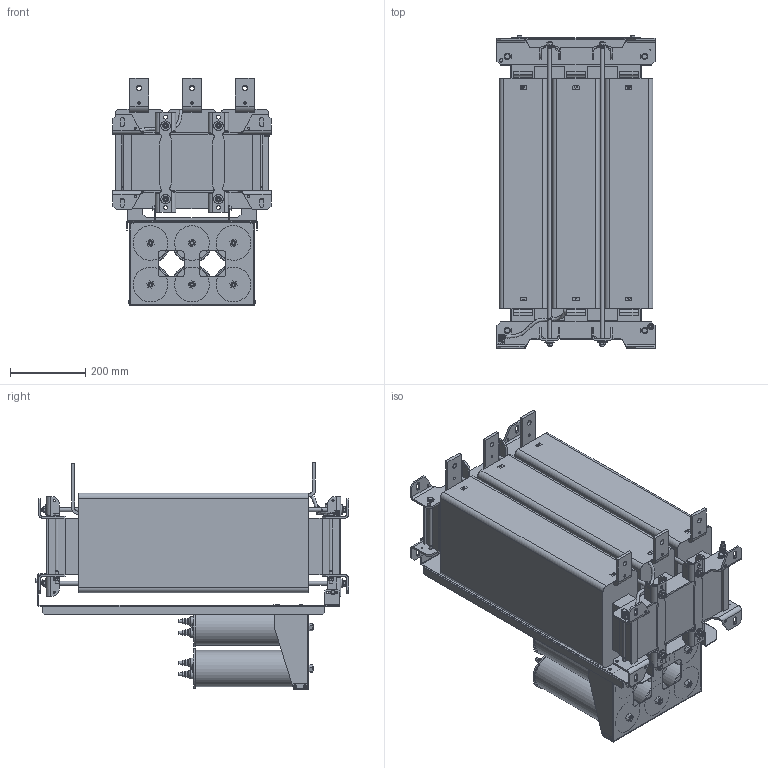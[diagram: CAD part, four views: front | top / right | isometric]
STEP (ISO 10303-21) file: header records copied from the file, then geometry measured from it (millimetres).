
FILE_DESCRIPTION(/* description */ (''),/* implementation_level */ '2;1');
FILE_NAME(/* name */ 'C:\Users\Erika.Jenzer\Desktop\CO20007647\Step Files\FN5420-800-99-E0XXT.stp',/* time_stamp */ '2021-03-02T10:44:42+01:00',/* author */ ('erika.jenzer'),/* organization */ (''),/* preprocessor_version */ 'ST-DEVELOPER v18.1',/* originating_system */ 'Autodesk Inventor 2020',/* authorisation */ '');
FILE_SCHEMA (('AUTOMOTIVE_DESIGN { 1 0 10303 214 3 1 1 }'));
Products named in the file (1): FN5420-800-99-E0XXT
Bounding box: 420 x 829.45 x 601.87 mm (x, y, z)
Volume: 83657907.1 mm3; surface area: 4054449.2 mm2
Topology: 31 solids, 31 shells, 2757 faces, 7526 edges, 5035 vertices
Faces by surface type: plane 1791, cylinder 674, cone 161, bspline 100, torus 30, sphere 1
Full cylindrical faces by diameter (mm): 0.003 x1, 1 x1, 2.013 x4, 2.5 x1, 2.8 x5, 3.4 x4, 4 x4, 4.1 x4, 4.3 x4, 5.5 x20, 6 x8, 6.6 x6, 7.78 x4, 7.9 x8, 8 x59, 8.2 x1, 8.4 x18, 8.6 x24, 9 x12, 9.5 x4, 10.2 x16, 10.5 x7, 11.4 x1, 11.5 x12, 12 x18, 12.5 x6, 13 x4, 13.5 x6, 16 x34, 22 x12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
Entity records: 94863 total; most frequent: CARTESIAN_POINT 21262, ORIENTED_EDGE 15052, DIRECTION 14453, EDGE_CURVE 7526, VERTEX_POINT 5035, AXIS2_PLACEMENT_3D 5000, LINE 4453, VECTOR 4453
